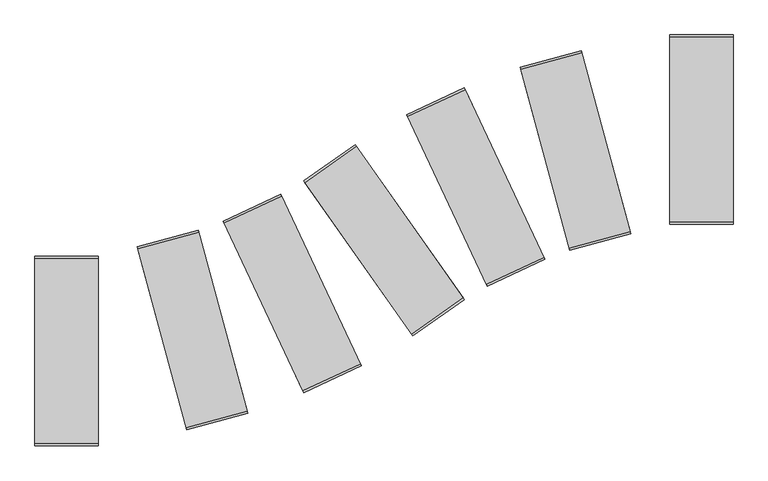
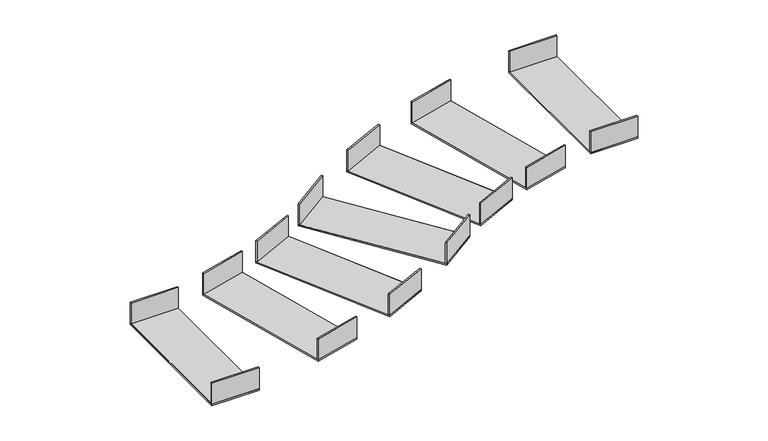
"""IFC4 building model written with IfcOpenShell, lengths in millimetres: cable carrier fitting geometry, Offset-Horizontal-Cablofil-Wire_Mesh_Cable_Tray-Cablobend : Cablobend."""

from ifc_helpers import new_model, si_unit, frame, origin, place, context, project, spatial, polyline, outline, extrude, source, transform, mapped, element, save


def cable_carrier_fitting_2dc3f8d2(model_context):
    return source(origin(), model_context, "Body", "SweptSolid", [
        extrude(outline(polyline([(75.2809459, -67.4302532), (-54.0507261, 208.5703965), (37.9494904, 251.6809538), (167.2811624, -24.3196958), (75.2809459, -67.4302532)])), frame((0.0, 0.0, -25.4), z_axis=(0.0, 0.0, 1.0), x_axis=(1.0, 0.0, 0.0)), (0.0, 0.0, 1.0), 3.175),
        extrude(outline(polyline([(-50.8, 0.0), (0.0, 0.0), (0.0, -304.8), (-50.8, -304.8), (-50.8, -301.625), (-3.175, -301.625), (-3.175, -3.1749999), (-50.8, -3.1749999), (-50.8, 0.0)])), frame((-54.0507261, 208.5703965, -25.4), z_axis=(0.9055139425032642, 0.4243165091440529, 0.0), x_axis=(0.0, 0.0, -1.0)), (0.0, 0.0, 1.0), 101.6),
        extrude(outline(polyline([(663.9801357, 203.2), (663.9801357, 508.0), (765.5801357, 508.0), (765.5801357, 203.2), (663.9801357, 203.2)])), frame((0.0, 0.0, -25.4), z_axis=(0.0, 0.0, 1.0), x_axis=(1.0, 0.0, 0.0)), (0.0, 0.0, 1.0), 3.175),
        extrude(outline(polyline([(508.0, 25.4), (508.0, -25.4), (203.2, -25.4), (203.2, 25.4), (206.375, 25.4), (206.375, -22.225), (504.825, -22.225), (504.825, 25.4), (508.0, 25.4)])), frame((663.9801357, 0.0, 0.0), z_axis=(1.0, 0.0, 0.0), x_axis=(0.0, 1.0, 0.0)), (0.0, 0.0, 1.0), 101.6),
        extrude(outline(polyline([(502.7238238, 161.7268957), (423.5046784, 456.0521698), (521.6131031, 482.4585516), (600.8322485, 188.1332775), (502.7238238, 161.7268957)])), frame((0.0, 0.0, -25.4), z_axis=(0.0, 0.0, 1.0), x_axis=(1.0, 0.0, 0.0)), (0.0, 0.0, 1.0), 3.175),
        extrude(outline(polyline([(-50.8, 0.0), (0.0, 0.0), (0.0, -304.8), (-50.8, -304.8), (-50.8, -301.6249999), (-3.175, -301.6249999), (-3.175, -3.1749999), (-50.8, -3.1749999), (-50.8, 0.0)])), frame((423.5046784, 456.0521698, -25.4), z_axis=(0.9656341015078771, 0.25990533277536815, 0.0), x_axis=(0.0, 0.0, -1.0)), (0.0, 0.0, 1.0), 101.6),
        extrude(outline(polyline([(370.5307811, 103.9190462), (241.1991091, 379.9196958), (333.1993256, 423.0302532), (462.5309976, 147.0296035), (370.5307811, 103.9190462)])), frame((0.0, 0.0, -25.4), z_axis=(0.0, 0.0, 1.0), x_axis=(1.0, 0.0, 0.0)), (0.0, 0.0, 1.0), 3.175),
        extrude(outline(polyline([(-50.8, 0.0), (0.0, 0.0), (0.0, -304.7999999), (-50.8, -304.7999999), (-50.8, -301.625), (-3.175, -301.625), (-3.175, -3.1749999), (-50.8, -3.1749999), (-50.8, 0.0)])), frame((241.1991091, 379.9196958, -25.4), z_axis=(0.9055139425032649, 0.4243165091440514, 0.0), x_axis=(0.0, 0.0, -1.0)), (0.0, 0.0, 1.0), 101.6),
        extrude(outline(polyline([(250.4442108, 23.9442772), (74.963442, 273.1621332), (158.0360606, 331.6557228), (333.5168295, 82.4378668), (250.4442108, 23.9442772)])), frame((0.0, 0.0, -25.4), z_axis=(0.0, 0.0, 1.0), x_axis=(1.0, 0.0, 0.0)), (0.0, 0.0, 1.0), 3.175),
        extrude(outline(polyline([(-50.8, 0.0), (0.0, 0.0), (0.0, -304.7999999), (-50.8, -304.7999999), (-50.8, -301.625), (-3.175, -301.625), (-3.175, -3.175), (-50.8, -3.175), (-50.8, 0.0)])), frame((74.963442, 273.1621332, -25.4), z_axis=(0.8176438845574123, 0.5757243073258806, 0.0), x_axis=(0.0, 0.0, -1.0)), (0.0, 0.0, 1.0), 101.6),
        extrude(outline(polyline([(-113.1328316, -126.8585516), (-192.351977, 167.4667225), (-94.2435523, 193.8731043), (-15.0244069, -100.4521698), (-113.1328316, -126.8585516)])), frame((0.0, 0.0, -25.4), z_axis=(0.0, 0.0, 1.0), x_axis=(1.0, 0.0, 0.0)), (0.0, 0.0, 1.0), 3.175),
        extrude(outline(polyline([(-50.8, 0.0), (0.0, 0.0), (0.0, -304.8), (-50.8, -304.8), (-50.8, -301.625), (-3.175, -301.625), (-3.175, -3.175), (-50.8, -3.175), (-50.8, 0.0)])), frame((-192.351977, 167.4667225, -25.4), z_axis=(0.9656341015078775, 0.2599053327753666, 0.0), x_axis=(0.0, 0.0, -1.0)), (0.0, 0.0, 1.0), 101.6),
        extrude(outline(polyline([(-357.0998643, -152.4), (-357.0998643, 152.4), (-255.4998643, 152.4), (-255.4998643, -152.4), (-357.0998643, -152.4)])), frame((0.0, 0.0, -25.4), z_axis=(0.0, 0.0, 1.0), x_axis=(1.0, 0.0, 0.0)), (0.0, 0.0, 1.0), 3.175),
        extrude(outline(polyline([(152.4, 25.4), (152.4, -25.4), (-152.4, -25.4), (-152.4, 25.4), (-149.225, 25.4), (-149.225, -22.225), (149.225, -22.225), (149.225, 25.4), (152.4, 25.4)])), frame((-357.0998643, 0.0, 0.0), z_axis=(1.0, 0.0, 0.0), x_axis=(0.0, 1.0, 0.0)), (0.0, 0.0, 1.0), 101.6),
    ])


if __name__ == "__main__":
    model = new_model("IFC4")
    model_context = context("Model", 3, world=origin())
    ifc_project = project(units=[si_unit("LENGTHUNIT", "METRE", prefix="MILLI")], contexts=[model_context])
    site = spatial("IfcSite", under=ifc_project)
    building = spatial("IfcBuilding", under=site)
    placement = place(None, origin())
    cable_carrier_fitting_shape = cable_carrier_fitting_2dc3f8d2(model_context)
    element("IfcCableCarrierFitting", 1, ObjectType="Offset-Horizontal-Cablofil-Wire_Mesh_Cable_Tray-Cablobend : Cablobend", at=placement, inside=building, context=model_context, shape_type="MappedRepresentation", body=[
        mapped(cable_carrier_fitting_shape, transform((0.0, 0.0, 0.0), x_axis=(1.0, 0.0, 0.0), y_axis=(0.0, 1.0, 0.0), z_axis=(0.0, 0.0, 1.0))),
    ])
    save(model, "model.ifc")
